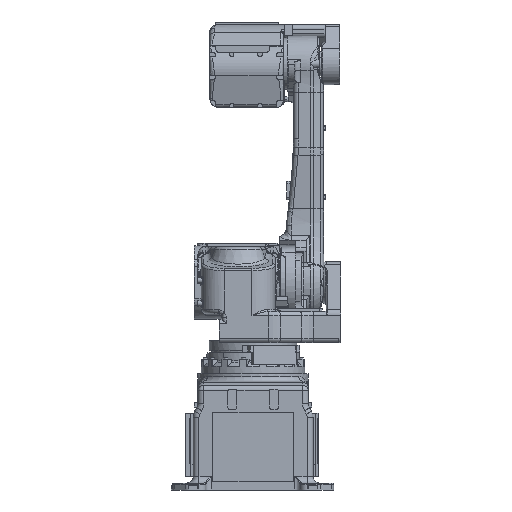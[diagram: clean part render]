
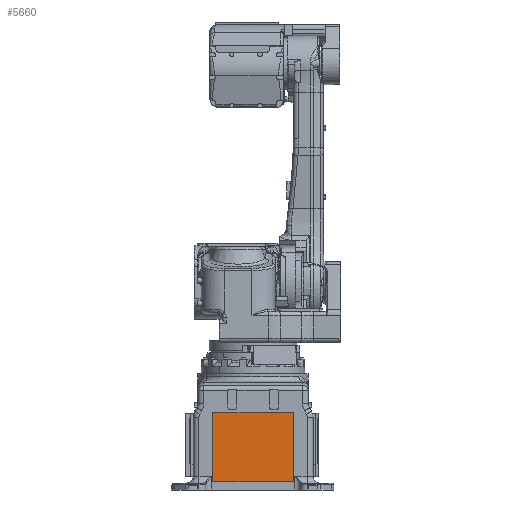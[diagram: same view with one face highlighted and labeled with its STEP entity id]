
A CAD part, front view. The second image highlights one B-rep face of the part: STEP entity #5660.
In plain terms, the highlighted planar face has unit normal (0, -1, 0).
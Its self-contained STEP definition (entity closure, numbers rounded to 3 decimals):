
#5621=CARTESIAN_POINT('Axis2P3D Location',(0.,-411.,185.)) ;
#5626=CARTESIAN_POINT('Line Origine',(0.,-411.,335.)) ;
#5630=CARTESIAN_POINT('Vertex',(175.,-411.,335.)) ;
#5632=CARTESIAN_POINT('Vertex',(-175.,-411.,335.)) ;
#5635=CARTESIAN_POINT('Line Origine',(-175.,-411.,185.)) ;
#5639=CARTESIAN_POINT('Vertex',(-175.,-411.,35.)) ;
#5642=CARTESIAN_POINT('Line Origine',(0.,-411.,35.)) ;
#5646=CARTESIAN_POINT('Vertex',(175.,-411.,35.)) ;
#5649=CARTESIAN_POINT('Line Origine',(175.,-411.,185.)) ;
#5622=DIRECTION('Axis2P3D Direction',(0.,-1.,0.)) ;
#5623=DIRECTION('Axis2P3D XDirection',(1.,0.,0.)) ;
#5627=DIRECTION('Vector Direction',(1.,0.,0.)) ;
#5636=DIRECTION('Vector Direction',(0.,0.,1.)) ;
#5643=DIRECTION('Vector Direction',(-1.,0.,0.)) ;
#5650=DIRECTION('Vector Direction',(0.,0.,-1.)) ;
#5624=AXIS2_PLACEMENT_3D('Plane Axis2P3D',#5621,#5622,#5623) ;
#5655=ORIENTED_EDGE('',*,*,#5634,.T.) ;
#5656=ORIENTED_EDGE('',*,*,#5641,.T.) ;
#5657=ORIENTED_EDGE('',*,*,#5648,.T.) ;
#5658=ORIENTED_EDGE('',*,*,#5653,.T.) ;
#5628=VECTOR('Line Direction',#5627,1.) ;
#5637=VECTOR('Line Direction',#5636,1.) ;
#5644=VECTOR('Line Direction',#5643,1.) ;
#5651=VECTOR('Line Direction',#5650,1.) ;
#5660=ADVANCED_FACE('\X2\FF8EFF9EFF83FF9EFF68FF70\X0\.138',(#5659),#5625,.T.) ;
#5634=EDGE_CURVE('',#5631,#5633,#5629,.F.) ;
#5641=EDGE_CURVE('',#5633,#5640,#5638,.F.) ;
#5648=EDGE_CURVE('',#5640,#5647,#5645,.F.) ;
#5653=EDGE_CURVE('',#5647,#5631,#5652,.F.) ;
#5654=EDGE_LOOP('',(#5655,#5656,#5657,#5658)) ;
#5659=FACE_OUTER_BOUND('',#5654,.T.) ;
#5629=LINE('Line',#5626,#5628) ;
#5638=LINE('Line',#5635,#5637) ;
#5645=LINE('Line',#5642,#5644) ;
#5652=LINE('Line',#5649,#5651) ;
#5625=PLANE('',#5624) ;
#5631=VERTEX_POINT('',#5630) ;
#5633=VERTEX_POINT('',#5632) ;
#5640=VERTEX_POINT('',#5639) ;
#5647=VERTEX_POINT('',#5646) ;
